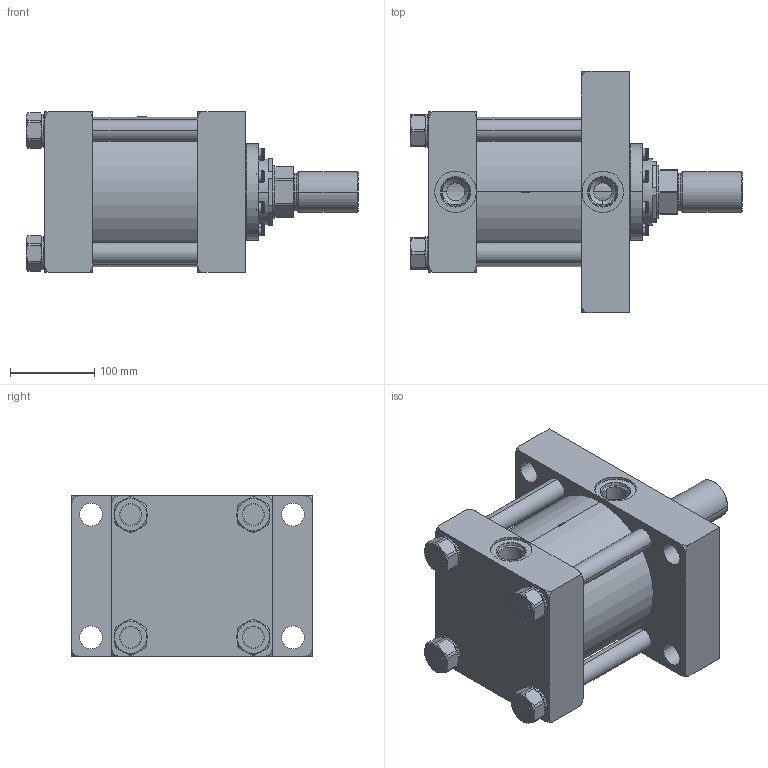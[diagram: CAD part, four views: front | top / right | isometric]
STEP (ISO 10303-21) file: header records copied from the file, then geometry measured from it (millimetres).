
FILE_DESCRIPTION (( 'STEP AP214' ), '1' );
FILE_NAME ('6.00JJ2HHNAT114A2.000.step', '2026-03-26T21:18:49', ( '' ), ( '' ), 'SwSTEP 2.0', 'SolidWorks 2023', '' );
FILE_SCHEMA (( 'AUTOMOTIVE_DESIGN' ));
Length unit declared in the file: inch
Products named in the file (1): 6.00JJ2HHNAT114A2.000
Bounding box: 393.7 x 285.75 x 190.5 mm (x, y, z)
Volume: 7888330.2 mm3; surface area: 812478.1 mm2
Topology: 40 solids, 40 shells, 1836 faces, 4863 edges, 3118 vertices
Faces by surface type: plane 812, cylinder 753, cone 229, bspline 34, torus 8
Entity records: 84597 total; most frequent: CARTESIAN_POINT 15738, ORIENTED_EDGE 9646, DIRECTION 9073, EDGE_CURVE 4823, AXIS2_PLACEMENT_3D 3513, VERTEX_POINT 3118, LINE 2047, VECTOR 2047
